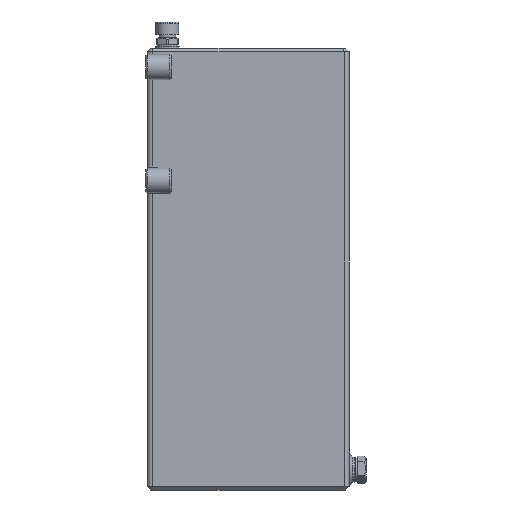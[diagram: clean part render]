
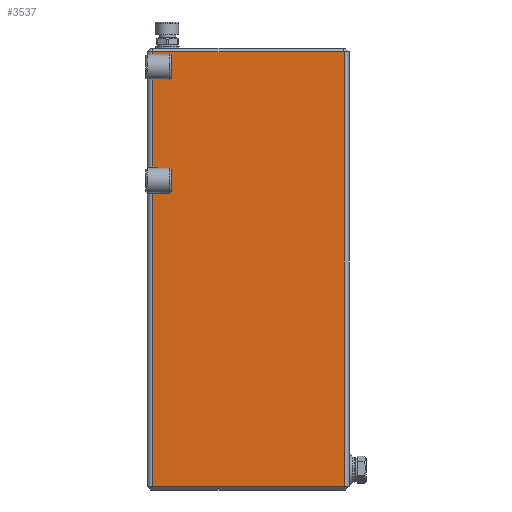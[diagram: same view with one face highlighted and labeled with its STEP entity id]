
A CAD part, left-side view. The second image highlights one B-rep face of the part: STEP entity #3537.
In plain terms, the highlighted planar face has unit normal (-1, 0, 0).
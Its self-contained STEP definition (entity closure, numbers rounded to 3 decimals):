
#78=LINE('',#7525,#281);
#80=LINE('',#7529,#283);
#81=LINE('',#7531,#284);
#83=LINE('',#7535,#286);
#84=LINE('',#7537,#287);
#86=LINE('',#7541,#289);
#87=LINE('',#7543,#290);
#89=LINE('',#7547,#292);
#90=LINE('',#7549,#293);
#91=LINE('',#7551,#294);
#93=LINE('',#7559,#296);
#94=LINE('',#7560,#297);
#95=LINE('',#7562,#298);
#118=LINE('',#7611,#321);
#119=LINE('',#7613,#322);
#127=LINE('',#7667,#330);
#129=LINE('',#7670,#332);
#130=LINE('',#7672,#333);
#281=VECTOR('',#6394,1000.);
#283=VECTOR('',#6398,1000.);
#284=VECTOR('',#6401,1000.);
#286=VECTOR('',#6405,1000.);
#287=VECTOR('',#6408,1000.);
#289=VECTOR('',#6412,1000.);
#290=VECTOR('',#6415,1000.);
#292=VECTOR('',#6419,1000.);
#293=VECTOR('',#6422,1000.);
#294=VECTOR('',#6425,1000.);
#296=VECTOR('',#6431,1000.);
#297=VECTOR('',#6432,1000.);
#298=VECTOR('',#6435,1000.);
#321=VECTOR('',#6490,1000.);
#322=VECTOR('',#6493,1000.);
#330=VECTOR('',#6557,1000.);
#332=VECTOR('',#6561,1000.);
#333=VECTOR('',#6562,1000.);
#1019=ORIENTED_EDGE('',*,*,#1666,.T.);
#1020=ORIENTED_EDGE('',*,*,#1665,.T.);
#1021=ORIENTED_EDGE('',*,*,#1664,.T.);
#1022=ORIENTED_EDGE('',*,*,#1662,.T.);
#1023=ORIENTED_EDGE('',*,*,#1661,.T.);
#1024=ORIENTED_EDGE('',*,*,#1671,.T.);
#1025=ORIENTED_EDGE('',*,*,#1659,.T.);
#1026=ORIENTED_EDGE('',*,*,#1658,.T.);
#1027=ORIENTED_EDGE('',*,*,#1656,.T.);
#1028=ORIENTED_EDGE('',*,*,#1655,.T.);
#1029=ORIENTED_EDGE('',*,*,#1670,.T.);
#1030=ORIENTED_EDGE('',*,*,#1672,.F.);
#1031=ORIENTED_EDGE('',*,*,#1653,.F.);
#1032=ORIENTED_EDGE('',*,*,#1698,.F.);
#1033=ORIENTED_EDGE('',*,*,#1699,.T.);
#1034=ORIENTED_EDGE('',*,*,#1721,.F.);
#1035=ORIENTED_EDGE('',*,*,#1723,.F.);
#1036=ORIENTED_EDGE('',*,*,#1724,.F.);
#1653=EDGE_CURVE('',#2063,#2031,#78,.T.);
#1655=EDGE_CURVE('',#2073,#2030,#80,.T.);
#1656=EDGE_CURVE('',#2016,#2073,#81,.T.);
#1658=EDGE_CURVE('',#2074,#2016,#83,.T.);
#1659=EDGE_CURVE('',#2029,#2074,#84,.T.);
#1661=EDGE_CURVE('',#2075,#2028,#86,.T.);
#1662=EDGE_CURVE('',#2022,#2075,#87,.T.);
#1664=EDGE_CURVE('',#2076,#2022,#89,.T.);
#1665=EDGE_CURVE('',#2027,#2076,#90,.T.);
#1666=EDGE_CURVE('',#2077,#2027,#91,.T.);
#1670=EDGE_CURVE('',#2030,#2080,#93,.T.);
#1671=EDGE_CURVE('',#2028,#2029,#94,.T.);
#1672=EDGE_CURVE('',#2031,#2080,#95,.T.);
#1698=EDGE_CURVE('',#2090,#2063,#118,.T.);
#1699=EDGE_CURVE('',#2090,#2091,#119,.T.);
#1721=EDGE_CURVE('',#2107,#2091,#127,.T.);
#1723=EDGE_CURVE('',#2109,#2107,#129,.T.);
#1724=EDGE_CURVE('',#2077,#2109,#130,.T.);
#2016=VERTEX_POINT('',#7364);
#2022=VERTEX_POINT('',#7379);
#2027=VERTEX_POINT('',#7393);
#2028=VERTEX_POINT('',#7397);
#2029=VERTEX_POINT('',#7401);
#2030=VERTEX_POINT('',#7405);
#2031=VERTEX_POINT('',#7409);
#2063=VERTEX_POINT('',#7494);
#2073=VERTEX_POINT('',#7528);
#2074=VERTEX_POINT('',#7534);
#2075=VERTEX_POINT('',#7540);
#2076=VERTEX_POINT('',#7546);
#2077=VERTEX_POINT('',#7552);
#2080=VERTEX_POINT('',#7558);
#2090=VERTEX_POINT('',#7610);
#2091=VERTEX_POINT('',#7614);
#2107=VERTEX_POINT('',#7665);
#2109=VERTEX_POINT('',#7671);
#2717=EDGE_LOOP('',(#1019,#1020,#1021,#1022,#1023,#1024,#1025,#1026,#1027,
#1028,#1029,#1030,#1031,#1032,#1033,#1034,#1035,#1036));
#3111=FACE_BOUND('',#2717,.T.);
#3338=PLANE('',#5675);
#3537=ADVANCED_FACE('',(#3111),#3338,.F.);
#5675=AXIS2_PLACEMENT_3D('',#7669,#6559,#6560);
#6394=DIRECTION('',(0.,1.,0.));
#6398=DIRECTION('',(0.,1.,0.));
#6401=DIRECTION('',(0.,0.,-1.));
#6405=DIRECTION('',(0.,0.,-1.));
#6408=DIRECTION('',(0.,-1.,0.));
#6412=DIRECTION('',(0.,1.,0.));
#6415=DIRECTION('',(0.,0.,-1.));
#6419=DIRECTION('',(0.,0.,-1.));
#6422=DIRECTION('',(0.,-1.,0.));
#6425=DIRECTION('',(0.,0.,-1.));
#6431=DIRECTION('',(0.,0.,-1.));
#6432=DIRECTION('',(0.,0.,-1.));
#6435=DIRECTION('',(0.,1.,0.));
#6490=DIRECTION('',(0.,1.,0.));
#6493=DIRECTION('',(0.,0.,1.));
#6557=DIRECTION('',(0.,-1.,0.));
#6559=DIRECTION('',(1.,0.,0.));
#6560=DIRECTION('',(0.,1.,0.));
#6561=DIRECTION('',(0.,-1.,0.));
#6562=DIRECTION('',(0.,-1.,0.));
#7364=CARTESIAN_POINT('',(-80.,62.,245.));
#7379=CARTESIAN_POINT('',(-80.,62.,335.));
#7393=CARTESIAN_POINT('',(-80.,76.,341.));
#7397=CARTESIAN_POINT('',(-80.,76.,329.));
#7401=CARTESIAN_POINT('',(-80.,76.,251.));
#7405=CARTESIAN_POINT('',(-80.,76.,239.));
#7409=CARTESIAN_POINT('',(-80.,75.5,3.));
#7494=CARTESIAN_POINT('',(-80.,-75.5,3.));
#7525=CARTESIAN_POINT('',(-80.,-80.,3.));
#7528=CARTESIAN_POINT('',(-80.,62.,239.));
#7529=CARTESIAN_POINT('',(-80.,62.,239.));
#7531=CARTESIAN_POINT('',(-80.,62.,175.));
#7534=CARTESIAN_POINT('',(-80.,62.,251.));
#7535=CARTESIAN_POINT('',(-80.,62.,175.));
#7537=CARTESIAN_POINT('',(-80.,76.,251.));
#7540=CARTESIAN_POINT('',(-80.,62.,329.));
#7541=CARTESIAN_POINT('',(-80.,62.,329.));
#7543=CARTESIAN_POINT('',(-80.,62.,175.));
#7546=CARTESIAN_POINT('',(-80.,62.,341.));
#7547=CARTESIAN_POINT('',(-80.,62.,175.));
#7549=CARTESIAN_POINT('',(-80.,76.,341.));
#7551=CARTESIAN_POINT('',(-80.,76.,347.));
#7552=CARTESIAN_POINT('',(-80.,76.,347.));
#7558=CARTESIAN_POINT('',(-80.,76.,3.));
#7559=CARTESIAN_POINT('',(-80.,76.,347.));
#7560=CARTESIAN_POINT('',(-80.,76.,347.));
#7562=CARTESIAN_POINT('',(-80.,-80.,3.));
#7610=CARTESIAN_POINT('',(-80.,-76.,3.));
#7611=CARTESIAN_POINT('',(-80.,-80.,3.));
#7613=CARTESIAN_POINT('',(-80.,-76.,3.));
#7614=CARTESIAN_POINT('',(-80.,-76.,347.));
#7665=CARTESIAN_POINT('',(-80.,-75.5,347.));
#7667=CARTESIAN_POINT('',(-80.,80.,347.));
#7669=CARTESIAN_POINT('',(-80.,0.,175.));
#7670=CARTESIAN_POINT('',(-80.,80.,347.));
#7671=CARTESIAN_POINT('',(-80.,75.5,347.));
#7672=CARTESIAN_POINT('',(-80.,80.,347.));
